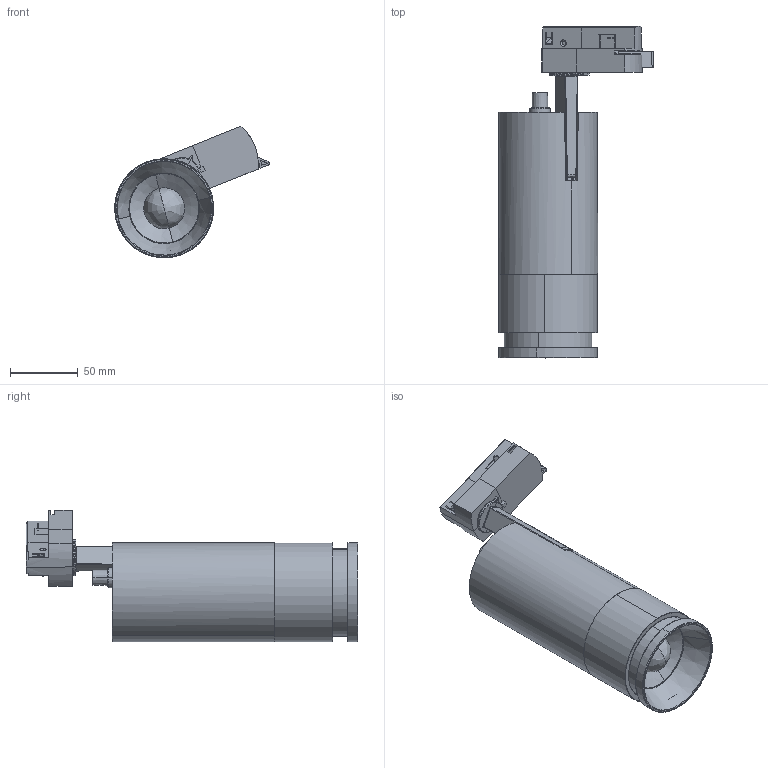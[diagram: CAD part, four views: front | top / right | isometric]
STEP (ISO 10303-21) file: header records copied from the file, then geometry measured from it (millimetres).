
FILE_DESCRIPTION (( 'STEP AP203' ), '1' );
FILE_NAME ('CAPRI DOB.STEP', '2022-05-17T08:06:33', ( '' ), ( '' ), 'SwSTEP 2.0', 'SolidWorks 2016', '' );
FILE_SCHEMA (( 'CONFIG_CONTROL_DESIGN' ));
Length unit declared in the file: millimetre
Products named in the file (18): 散热铝块; 伸缩圈 欧盛; 伸缩圈A; POWEGEAR; W1.2466_D55; M3X8; 昹沺傑 CLU028; 303021新开模散热器; Manopola dimmer; 鍼踢盓殤; 綴裔  YA007; M4X20; M4蹟譫; 蟀諉裝; 伸缩圈B; holder-4314-A0-1313 1616-3d stp; CAPRI DOB; 縐銅-1
Assembly tree (19 placements, depth 2):
  CAPRI DOB
    M4X20
    M4蹟譫
    M3X8  x3
    蟀諉裝
    散热铝块
    伸缩圈 欧盛
    W1.2466_D55
    伸缩圈A
    伸缩圈B
    holder-4314-A0-1313 1616-3d stp
    昹沺傑 CLU028
    縐銅-1
    POWEGEAR
    綴裔  YA007
    鍼踢盓殤
    303021新开模散热器
    Manopola dimmer
Bounding box: 113.79 x 244.41 x 96.82 mm (x, y, z)
Volume: 302783.7 mm3; surface area: 217114.4 mm2
Topology: 24 solids, 24 shells, 9026 faces, 25586 edges, 16634 vertices
Faces by surface type: plane 7342, bspline 907, cylinder 583, cone 127, torus 39, sphere 28
Entity records: 319968 total; most frequent: CARTESIAN_POINT 90872, ORIENTED_EDGE 50842, DIRECTION 41600, EDGE_CURVE 25421, VECTOR 21978, LINE 21978, VERTEX_POINT 16593, AXIS2_PLACEMENT_3D 9811
